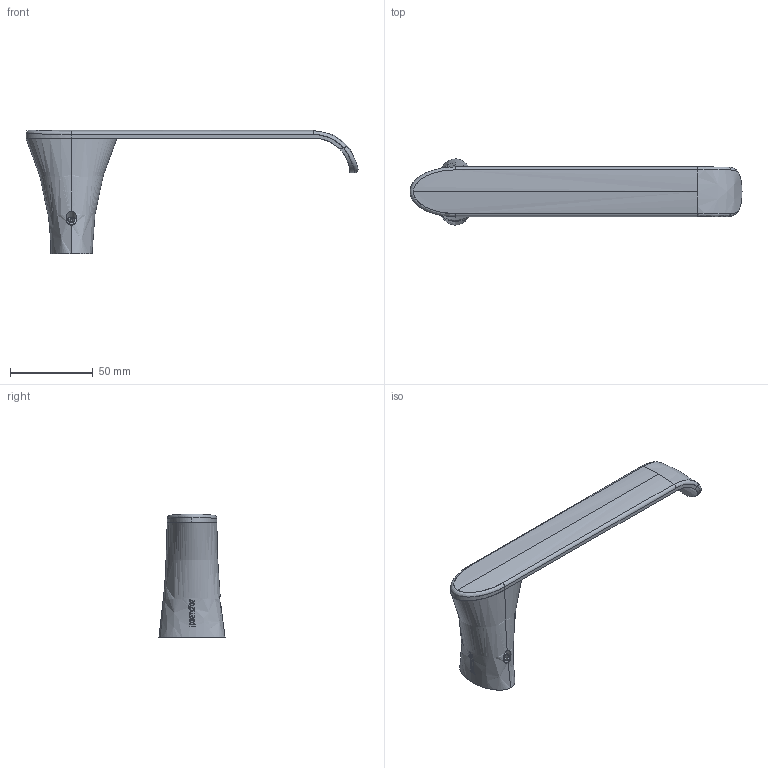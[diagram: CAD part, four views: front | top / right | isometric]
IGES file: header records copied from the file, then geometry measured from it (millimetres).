
Start section: SolidWorks IGES file using analytic representation for surfaces
Global section: file name: G:\Projects\New project\For Marketing\IGS\IGS\2015-12-25\764001001VW.IGS; native system: SolidWorks 2010; preprocessor: SolidWorks 2010; author: linda; date: 151218.140908; units: millimetre
Bounding box: 200.82 x 40 x 75 mm (x, y, z)
Surface area: 25435 mm2 (no closed solid volume)
Topology: 0 solids, 0 shells, 103 faces, 1912 edges, 1910 vertices
Faces by surface type: bspline 73, revolution 30
